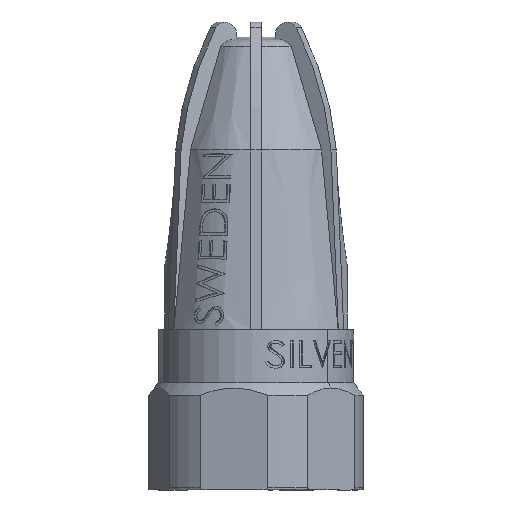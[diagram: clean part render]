
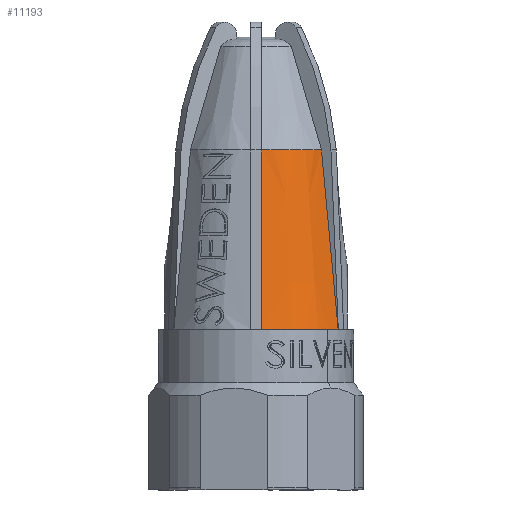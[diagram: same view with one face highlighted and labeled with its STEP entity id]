
A CAD part, left-side view. The second image highlights one B-rep face of the part: STEP entity #11193.
In plain terms, the highlighted conical face has half-angle 6.114 degrees and reference radius 7.36 mm.
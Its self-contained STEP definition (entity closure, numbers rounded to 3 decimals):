
#418 = VERTEX_POINT ( 'NONE', #10922 ) ;
#496 = EDGE_CURVE ( 'NONE', #418, #5875, #13647, .T. ) ;
#585 = ORIENTED_EDGE ( 'NONE', *, *, #6471, .F. ) ;
#917 = CARTESIAN_POINT ( 'NONE',  ( -7.343, -0.5, 16.71 ) ) ;
#1008 = CARTESIAN_POINT ( 'NONE',  ( -4.341, -6.519, 12.301 ) ) ;
#1241 = CARTESIAN_POINT ( 'NONE',  ( -4.939, -7.554, 1.161 ) ) ;
#1993 = DIRECTION ( 'NONE',  ( -1., 0., 0. ) ) ;
#2459 = CARTESIAN_POINT ( 'NONE',  ( -4.877, -7.447, 2.322 ) ) ;
#2830 = DIRECTION ( 'NONE',  ( 0., 0., -1. ) ) ;
#3173 = VERTEX_POINT ( 'NONE', #3694 ) ;
#3292 = CIRCLE ( 'NONE', #11650, 7.36 ) ;
#3694 = CARTESIAN_POINT ( 'NONE',  ( -4.105, -6.109, 16.71 ) ) ;
#3906 = AXIS2_PLACEMENT_3D ( 'NONE', #9543, #2830, #9376 ) ;
#4444 = B_SPLINE_CURVE_WITH_KNOTS ( 'NONE', 3,
 ( #8626, #4698, #7766, #917 ),
 .UNSPECIFIED., .F., .F.,
 ( 4, 4 ),
 ( 0., 0.017 ),
 .UNSPECIFIED. ) ;
#4698 = CARTESIAN_POINT ( 'NONE',  ( -8.539, -0.5, 5.57 ) ) ;
#4837 = ORIENTED_EDGE ( 'NONE', *, *, #14704, .F. ) ;
#4969 = CARTESIAN_POINT ( 'NONE',  ( -4.105, -6.109, 16.71 ) ) ;
#5875 = VERTEX_POINT ( 'NONE', #16738 ) ;
#6471 = EDGE_CURVE ( 'NONE', #12771, #3173, #3292, .T. ) ;
#6818 = ORIENTED_EDGE ( 'NONE', *, *, #16689, .F. ) ;
#7766 = CARTESIAN_POINT ( 'NONE',  ( -7.941, -0.5, 11.14 ) ) ;
#8108 = CARTESIAN_POINT ( 'NONE',  ( -7.343, -0.5, 16.71 ) ) ;
#8626 = CARTESIAN_POINT ( 'NONE',  ( -9.136, -0.5, 0. ) ) ;
#9234 = DIRECTION ( 'NONE',  ( -1., 0., 0. ) ) ;
#9347 = CARTESIAN_POINT ( 'NONE',  ( 0., 0., 16.71 ) ) ;
#9376 = DIRECTION ( 'NONE',  ( -1., 0., 0. ) ) ;
#9543 = CARTESIAN_POINT ( 'NONE',  ( 0., 0., 16.71 ) ) ;
#10204 = EDGE_LOOP ( 'NONE', ( #585, #6818, #10837, #4837 ) ) ;
#10837 = ORIENTED_EDGE ( 'NONE', *, *, #496, .F. ) ;
#10922 = CARTESIAN_POINT ( 'NONE',  ( -5.001, -7.662, 0. ) ) ;
#11126 = AXIS2_PLACEMENT_3D ( 'NONE', #16813, #14015, #1993 ) ;
#11193 = ADVANCED_FACE ( 'NONE', ( #11501 ), #11928, .T. ) ;
#11501 = FACE_OUTER_BOUND ( 'NONE', #10204, .T. ) ;
#11650 = AXIS2_PLACEMENT_3D ( 'NONE', #9347, #13171, #9234 ) ;
#11928 = CONICAL_SURFACE ( 'NONE', #3906, 7.36, 0.107 ) ;
#12771 = VERTEX_POINT ( 'NONE', #8108 ) ;
#13019 = CARTESIAN_POINT ( 'NONE',  ( -4.578, -6.929, 7.892 ) ) ;
#13135 = CARTESIAN_POINT ( 'NONE',  ( -4.814, -7.339, 3.483 ) ) ;
#13171 = DIRECTION ( 'NONE',  ( 0., 0., 1. ) ) ;
#13647 = CIRCLE ( 'NONE', #11126, 9.15 ) ;
#14015 = DIRECTION ( 'NONE',  ( 0., 0., -1. ) ) ;
#14704 = EDGE_CURVE ( 'NONE', #3173, #418, #17068, .T. ) ;
#15711 = CARTESIAN_POINT ( 'NONE',  ( -5.001, -7.662, 0. ) ) ;
#16689 = EDGE_CURVE ( 'NONE', #5875, #12771, #4444, .T. ) ;
#16738 = CARTESIAN_POINT ( 'NONE',  ( -9.136, -0.5, 0. ) ) ;
#16813 = CARTESIAN_POINT ( 'NONE',  ( 0., 0., 0. ) ) ;
#17068 = B_SPLINE_CURVE_WITH_KNOTS ( 'NONE', 3,
 ( #4969, #1008, #13019, #13135, #2459, #1241, #15711 ),
 .UNSPECIFIED., .F., .F.,
 ( 4, 3, 4 ),
 ( 0., 0.013, 0.017 ),
 .UNSPECIFIED. ) ;
